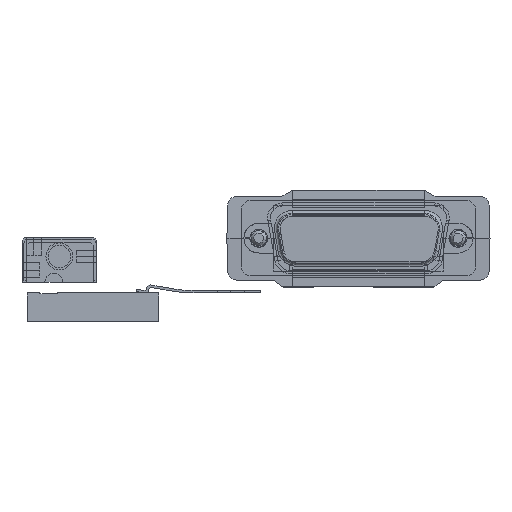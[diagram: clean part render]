
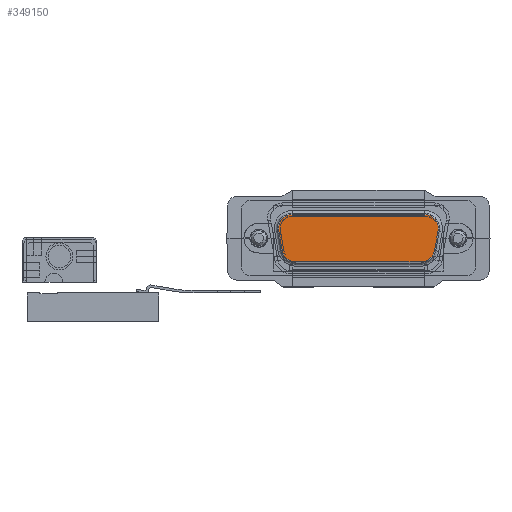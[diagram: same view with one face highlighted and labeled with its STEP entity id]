
A CAD part, left-side view. The second image highlights one B-rep face of the part: STEP entity #349150.
In plain terms, the highlighted planar face has unit normal (-1, 0, 0) as drawn and (1, 0, 0) by its records, which use the part's own axes.
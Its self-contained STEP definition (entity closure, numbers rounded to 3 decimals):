
#265300=CARTESIAN_POINT('',(-10.578,-37.393,
1.67));
#265310=DIRECTION('',(1.,0.,0.));
#265320=DIRECTION('',(0.,-1.,0.));
#265330=AXIS2_PLACEMENT_3D('',#265300,#265310,#265320);
#265340=CIRCLE('',#265330,2.05);
#265350=CARTESIAN_POINT('',(-10.578,-35.374,
2.026));
#265360=VERTEX_POINT('',#265350);
#265370=CARTESIAN_POINT('',(-10.578,-35.653,
2.755));
#265380=VERTEX_POINT('',#265370);
#265390=EDGE_CURVE('',#265360,#265380,#265340,.T.);
#290840=CARTESIAN_POINT('',(-10.578,-58.929,
-3.696));
#290850=VERTEX_POINT('',#290840);
#290900=CARTESIAN_POINT('',(-10.578,-44.902,
-3.696));
#290910=DIRECTION('',(0.,-1.,0.));
#290920=VECTOR('',#290910,1.);
#290930=LINE('',#290900,#290920);
#290940=CARTESIAN_POINT('',(-10.578,-36.819,
-3.696));
#290950=VERTEX_POINT('',#290940);
#290960=EDGE_CURVE('',#290950,#290850,#290930,.T.);
#291340=CARTESIAN_POINT('',(-10.578,-60.669,
-2.73));
#291350=VERTEX_POINT('',#291340);
#291380=CARTESIAN_POINT('',(-10.578,-58.929,
-1.646));
#291390=DIRECTION('',(1.,0.,0.));
#291400=DIRECTION('',(0.,-1.,0.));
#291410=AXIS2_PLACEMENT_3D('',#291380,#291390,#291400);
#291420=CIRCLE('',#291410,2.05);
#291430=EDGE_CURVE('',#291350,#290850,#291420,.T.);
#343690=CARTESIAN_POINT('',(-10.578,-34.8,
-1.29));
#343700=VERTEX_POINT('',#343690);
#343830=CARTESIAN_POINT('',(-10.578,-36.819,
-1.646));
#343840=DIRECTION('',(1.,0.,0.));
#343850=DIRECTION('',(0.,-1.,0.));
#343860=AXIS2_PLACEMENT_3D('',#343830,#343840,#343850);
#343870=CIRCLE('',#343860,2.05);
#343880=EDGE_CURVE('',#290950,#343700,#343870,.T.);
#346680=CARTESIAN_POINT('',(-10.578,-35.389,
2.05));
#346690=VERTEX_POINT('',#346680);
#346810=CARTESIAN_POINT('',(-10.578,-34.8,
-1.29));
#346820=DIRECTION('',(0.,-0.174,
0.985));
#346830=VECTOR('',#346820,1.);
#346840=LINE('',#346810,#346830);
#346850=EDGE_CURVE('',#343700,#346690,#346840,.T.);
#347380=CARTESIAN_POINT('',(-10.578,-34.785,
-1.314));
#347390=VERTEX_POINT('',#347380);
#347420=CARTESIAN_POINT('',(-10.578,-36.804,
-1.67));
#347430=DIRECTION('',(1.,0.,0.));
#347440=DIRECTION('',(0.,-1.,0.));
#347450=AXIS2_PLACEMENT_3D('',#347420,#347430,#347440);
#347460=CIRCLE('',#347450,2.05);
#347470=CARTESIAN_POINT('',(-10.578,-36.804,
-3.72));
#347480=VERTEX_POINT('',#347470);
#347490=EDGE_CURVE('',#347480,#347390,#347460,.T.);
#347740=CARTESIAN_POINT('',(-10.578,-36.128,
6.3));
#347750=DIRECTION('',(0.,-0.174,
0.985));
#347760=VECTOR('',#347750,1.);
#347770=LINE('',#347740,#347760);
#347780=EDGE_CURVE('',#347390,#265360,#347770,.T.);
#347970=CARTESIAN_POINT('',(-10.578,-37.408,
1.694));
#347980=DIRECTION('',(1.,0.,0.));
#347990=DIRECTION('',(0.,-1.,0.));
#348000=AXIS2_PLACEMENT_3D('',#347970,#347980,#347990);
#348010=CIRCLE('',#348000,2.05);
#348020=EDGE_CURVE('',#346690,#265380,#348010,.T.);
#348150=CARTESIAN_POINT('',(-10.578,-29.244,
6.3));
#348160=DIRECTION('',(1.,0.,0.));
#348170=DIRECTION('',(0.,-1.,0.));
#348180=AXIS2_PLACEMENT_3D('',#348150,#348160,#348170);
#348190=PLANE('',#348180);
#348200=ORIENTED_EDGE('',*,*,#348020,.T.);
#348210=ORIENTED_EDGE('',*,*,#346850,.T.);
#348220=ORIENTED_EDGE('',*,*,#343880,.T.);
#348230=ORIENTED_EDGE('',*,*,#290960,.F.);
#348240=ORIENTED_EDGE('',*,*,#291430,.T.);
#348250=CARTESIAN_POINT('',(-10.578,-58.914,
-1.67));
#348260=DIRECTION('',(1.,0.,0.));
#348270=DIRECTION('',(0.,-1.,0.));
#348280=AXIS2_PLACEMENT_3D('',#348250,#348260,#348270);
#348290=CIRCLE('',#348280,2.05);
#348300=CARTESIAN_POINT('',(-10.578,-58.914,
-3.72));
#348310=VERTEX_POINT('',#348300);
#348320=EDGE_CURVE('',#291350,#348310,#348290,.T.);
#348330=ORIENTED_EDGE('',*,*,#348320,.F.);
#348340=CARTESIAN_POINT('',(-10.578,-37.574,
-3.72));
#348350=DIRECTION('',(0.,1.,0.));
#348360=VECTOR('',#348350,1.);
#348370=LINE('',#348340,#348360);
#348380=EDGE_CURVE('',#348310,#347480,#348370,.T.);
#348390=ORIENTED_EDGE('',*,*,#348380,.F.);
#348400=ORIENTED_EDGE('',*,*,#347490,.F.);
#348410=ORIENTED_EDGE('',*,*,#347780,.F.);
#348420=ORIENTED_EDGE('',*,*,#265390,.F.);
#348430=EDGE_LOOP('',(#348420,#348410,#348400,#348390,#348330,#348240,
#348230,#348220,#348210,#348200));
#348440=FACE_BOUND('',#348430,.T.);
#348450=CARTESIAN_POINT('',(-10.578,-37.393,
1.67));
#348460=DIRECTION('',(1.,0.,0.));
#348470=DIRECTION('',(0.,-1.,0.));
#348480=AXIS2_PLACEMENT_3D('',#348450,#348460,#348470);
#348490=CIRCLE('',#348480,2.3);
#348500=CARTESIAN_POINT('',(-10.578,-35.128,
2.069));
#348510=VERTEX_POINT('',#348500);
#348520=CARTESIAN_POINT('',(-10.578,-37.393,
3.97));
#348530=VERTEX_POINT('',#348520);
#348540=EDGE_CURVE('',#348510,#348530,#348490,.T.);
#348550=ORIENTED_EDGE('',*,*,#348540,.T.);
#348560=CARTESIAN_POINT('',(-10.578,-35.874,
6.3));
#348570=DIRECTION('',(0.,-0.174,
0.985));
#348580=VECTOR('',#348570,1.);
#348590=LINE('',#348560,#348580);
#348600=CARTESIAN_POINT('',(-10.578,-34.539,
-1.271));
#348610=VERTEX_POINT('',#348600);
#348620=EDGE_CURVE('',#348610,#348510,#348590,.T.);
#348630=ORIENTED_EDGE('',*,*,#348620,.T.);
#348640=CARTESIAN_POINT('',(-10.578,-36.804,
-1.67));
#348650=DIRECTION('',(1.,0.,0.));
#348660=DIRECTION('',(0.,-1.,0.));
#348670=AXIS2_PLACEMENT_3D('',#348640,#348650,#348660);
#348680=CIRCLE('',#348670,2.3);
#348690=CARTESIAN_POINT('',(-10.578,-36.804,
-3.97));
#348700=VERTEX_POINT('',#348690);
#348710=EDGE_CURVE('',#348700,#348610,#348680,.T.);
#348720=ORIENTED_EDGE('',*,*,#348710,.T.);
#348730=CARTESIAN_POINT('',(-10.578,-37.574,
-3.97));
#348740=DIRECTION('',(0.,-1.,0.));
#348750=VECTOR('',#348740,1.);
#348760=LINE('',#348730,#348750);
#348770=CARTESIAN_POINT('',(-10.578,-58.914,
-3.97));
#348780=VERTEX_POINT('',#348770);
#348790=EDGE_CURVE('',#348700,#348780,#348760,.T.);
#348800=ORIENTED_EDGE('',*,*,#348790,.F.);
#348810=CARTESIAN_POINT('',(-10.578,-58.914,
-1.67));
#348820=DIRECTION('',(1.,0.,0.));
#348830=DIRECTION('',(0.,-1.,0.));
#348840=AXIS2_PLACEMENT_3D('',#348810,#348820,#348830);
#348850=CIRCLE('',#348840,2.3);
#348860=CARTESIAN_POINT('',(-10.578,-61.179,
-1.271));
#348870=VERTEX_POINT('',#348860);
#348880=EDGE_CURVE('',#348870,#348780,#348850,.T.);
#348890=ORIENTED_EDGE('',*,*,#348880,.T.);
#348900=CARTESIAN_POINT('',(-10.578,-59.844,
6.3));
#348910=DIRECTION('',(0.,0.174,
0.985));
#348920=VECTOR('',#348910,1.);
#348930=LINE('',#348900,#348920);
#348940=CARTESIAN_POINT('',(-10.578,-60.59,
2.069));
#348950=VERTEX_POINT('',#348940);
#348960=EDGE_CURVE('',#348870,#348950,#348930,.T.);
#348970=ORIENTED_EDGE('',*,*,#348960,.F.);
#348980=CARTESIAN_POINT('',(-10.578,-58.325,
1.67));
#348990=DIRECTION('',(1.,0.,0.));
#349000=DIRECTION('',(0.,-1.,0.));
#349010=AXIS2_PLACEMENT_3D('',#348980,#348990,#349000);
#349020=CIRCLE('',#349010,2.3);
#349030=CARTESIAN_POINT('',(-10.578,-58.325,
3.97));
#349040=VERTEX_POINT('',#349030);
#349050=EDGE_CURVE('',#349040,#348950,#349020,.T.);
#349060=ORIENTED_EDGE('',*,*,#349050,.T.);
#349070=CARTESIAN_POINT('',(-10.578,-29.244,
3.97));
#349080=DIRECTION('',(0.,-1.,0.));
#349090=VECTOR('',#349080,1.);
#349100=LINE('',#349070,#349090);
#349110=EDGE_CURVE('',#348530,#349040,#349100,.T.);
#349120=ORIENTED_EDGE('',*,*,#349110,.T.);
#349130=EDGE_LOOP('',(#349120,#349060,#348970,#348890,#348800,#348720,
#348630,#348550));
#349140=FACE_OUTER_BOUND('',#349130,.T.);
#349150=ADVANCED_FACE('',(#348440,#349140),#348190,.T.);
